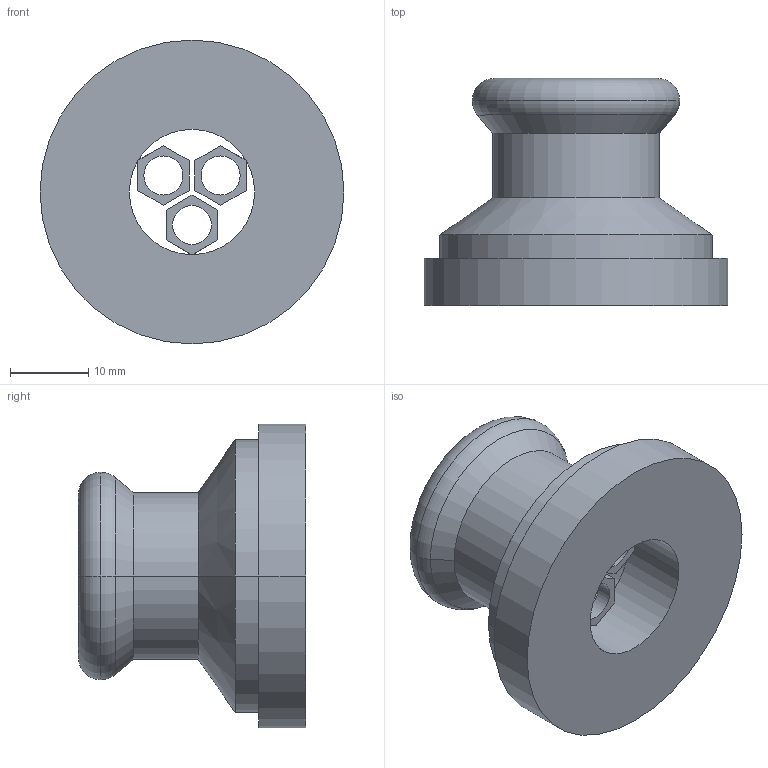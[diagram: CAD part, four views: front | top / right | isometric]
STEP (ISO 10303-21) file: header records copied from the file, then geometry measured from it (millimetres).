
FILE_DESCRIPTION(('OneSpaceDesigner STEP Export'),'2;1');
FILE_NAME('R2736 18x1 1-4.stp','2010-06-10T14:03:59',(''),(''),'OneSpace Designer STEP processor for AP214 (Solid Model)','OneSpace Modeling 15.00A 14-Mar-2007 (C) CoCreate Software GmbH','');
FILE_SCHEMA(('AUTOMOTIVE_DESIGN { 1 0 10303 214 1 1 1 1 }'));
Length unit declared in the file: millimetre
Products named in the file (2): R2736_18x1.1-4
Assembly tree (1 placements, depth 2):
  R2736_18x1.1-4
    R2736_18x1.1-4
Bounding box: 38.8 x 29 x 38.8 mm (x, y, z)
Volume: 12313.9 mm3; surface area: 7044.4 mm2
Topology: 1 solids, 1 shells, 63 faces, 153 edges, 98 vertices
Faces by surface type: plane 32, cylinder 21, cone 6, torus 4
Entity records: 1692 total; most frequent: ORIENTED_EDGE 306, CARTESIAN_POINT 272, DIRECTION 255, EDGE_CURVE 153, VERTEX_POINT 98, VECTOR 93, LINE 93, AXIS2_PLACEMENT_3D 81
